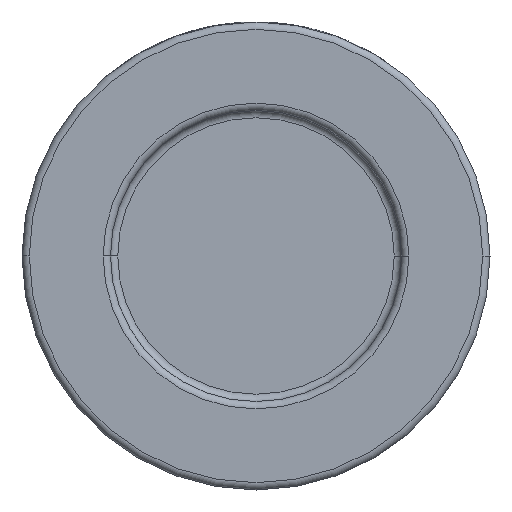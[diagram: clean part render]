
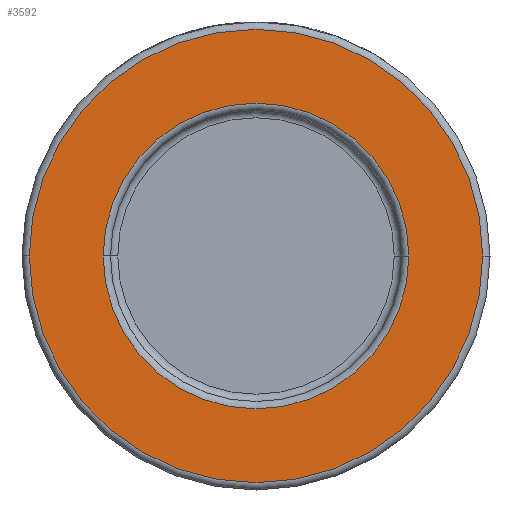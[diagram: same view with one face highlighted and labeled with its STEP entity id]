
A CAD part, front view. The second image highlights one B-rep face of the part: STEP entity #3592.
In plain terms, the highlighted planar face has unit normal (0, -1, 0).
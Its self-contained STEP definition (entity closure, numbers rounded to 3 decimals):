
#6 = DIRECTION ( 'NONE',  ( 0., -1., 0. ) ) ;
#261 = AXIS2_PLACEMENT_3D ( 'NONE', #1461, #6, #1812 ) ;
#286 = CARTESIAN_POINT ( 'NONE',  ( -20.9, -22., 0. ) ) ;
#386 = EDGE_CURVE ( 'NONE', #587, #465, #1666, .T. ) ;
#465 = VERTEX_POINT ( 'NONE', #492 ) ;
#492 = CARTESIAN_POINT ( 'NONE',  ( 20.9, -22., 0. ) ) ;
#508 = PLANE ( 'NONE',  #542 ) ;
#542 = AXIS2_PLACEMENT_3D ( 'NONE', #4338, #1943, #3009 ) ;
#555 = VERTEX_POINT ( 'NONE', #4459 ) ;
#587 = VERTEX_POINT ( 'NONE', #286 ) ;
#624 = AXIS2_PLACEMENT_3D ( 'NONE', #2440, #2045, #3460 ) ;
#671 = EDGE_CURVE ( 'NONE', #3911, #555, #4170, .T. ) ;
#865 = DIRECTION ( 'NONE',  ( 1., 0., 0. ) ) ;
#1241 = EDGE_CURVE ( 'NONE', #555, #3911, #2487, .T. ) ;
#1334 = EDGE_LOOP ( 'NONE', ( #1650, #1382 ) ) ;
#1382 = ORIENTED_EDGE ( 'NONE', *, *, #386, .T. ) ;
#1453 = AXIS2_PLACEMENT_3D ( 'NONE', #4376, #3391, #865 ) ;
#1461 = CARTESIAN_POINT ( 'NONE',  ( 0., -22., 0. ) ) ;
#1507 = CIRCLE ( 'NONE', #3358, 20.9 ) ;
#1650 = ORIENTED_EDGE ( 'NONE', *, *, #4539, .T. ) ;
#1666 = CIRCLE ( 'NONE', #624, 20.9 ) ;
#1732 = ORIENTED_EDGE ( 'NONE', *, *, #1241, .T. ) ;
#1762 = CARTESIAN_POINT ( 'NONE',  ( -31., -22., 0. ) ) ;
#1812 = DIRECTION ( 'NONE',  ( 1., 0., 0. ) ) ;
#1943 = DIRECTION ( 'NONE',  ( 0., -1., 0. ) ) ;
#2045 = DIRECTION ( 'NONE',  ( 0., 1., 0. ) ) ;
#2106 = EDGE_LOOP ( 'NONE', ( #1732, #2587 ) ) ;
#2196 = DIRECTION ( 'NONE',  ( 1., 0., 0. ) ) ;
#2273 = FACE_BOUND ( 'NONE', #1334, .T. ) ;
#2398 = CARTESIAN_POINT ( 'NONE',  ( 0., -22., 0. ) ) ;
#2440 = CARTESIAN_POINT ( 'NONE',  ( 0., -22., 0. ) ) ;
#2487 = CIRCLE ( 'NONE', #1453, 31. ) ;
#2542 = DIRECTION ( 'NONE',  ( 0., 1., 0. ) ) ;
#2587 = ORIENTED_EDGE ( 'NONE', *, *, #671, .T. ) ;
#3009 = DIRECTION ( 'NONE',  ( 1., 0., 0. ) ) ;
#3312 = FACE_OUTER_BOUND ( 'NONE', #2106, .T. ) ;
#3358 = AXIS2_PLACEMENT_3D ( 'NONE', #2398, #2542, #2196 ) ;
#3391 = DIRECTION ( 'NONE',  ( 0., -1., 0. ) ) ;
#3460 = DIRECTION ( 'NONE',  ( 1., 0., 0. ) ) ;
#3592 = ADVANCED_FACE ( 'NONE', ( #2273, #3312 ), #508, .T. ) ;
#3911 = VERTEX_POINT ( 'NONE', #1762 ) ;
#4170 = CIRCLE ( 'NONE', #261, 31. ) ;
#4338 = CARTESIAN_POINT ( 'NONE',  ( 32., -22., 0. ) ) ;
#4376 = CARTESIAN_POINT ( 'NONE',  ( 0., -22., 0. ) ) ;
#4459 = CARTESIAN_POINT ( 'NONE',  ( 31., -22., 0. ) ) ;
#4539 = EDGE_CURVE ( 'NONE', #465, #587, #1507, .T. ) ;
